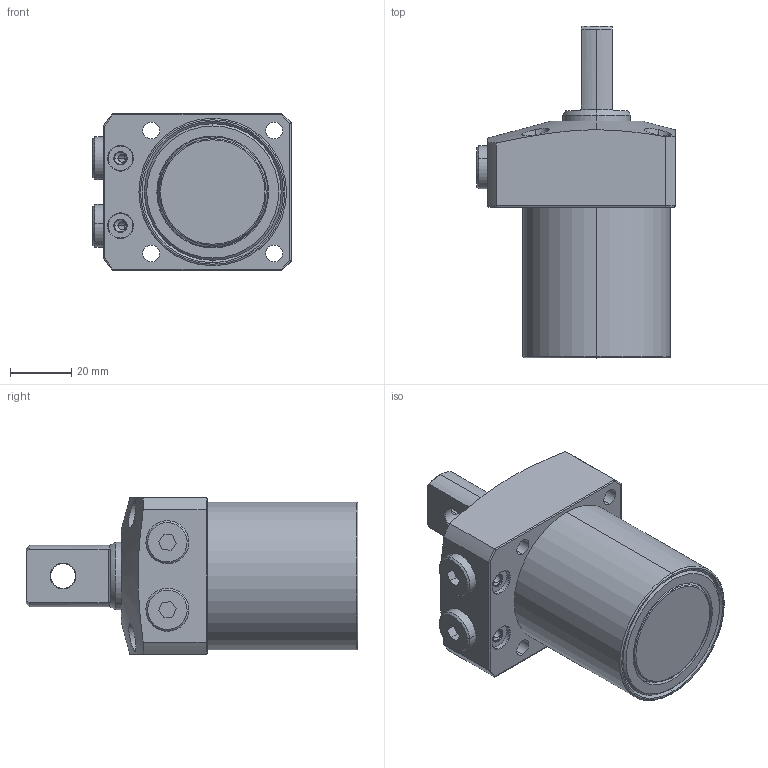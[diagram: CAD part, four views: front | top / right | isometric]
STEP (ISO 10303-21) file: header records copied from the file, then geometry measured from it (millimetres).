
FILE_DESCRIPTION (( 'STEP AP203' ), '1' );
FILE_NAME ('20360-CR-P.step', '2019-06-24T03:10:25', ( '微软用户' ), ( '微软中国' ), 'SwSTEP 2.0', 'SolidWorks 2014', '' );
FILE_SCHEMA (( 'CONFIG_CONTROL_DESIGN' ));
Length unit declared in the file: millimetre
Products named in the file (5): 20360-C-P-1^20360-CR-P; 20360-C-P-2^20360-CR-P; 20360-C-P-3^20360-CR-P; 20360-C-P-4^20360-CR-P; 20360-CR-P
Assembly tree (5 placements, depth 2):
  20360-CR-P
    20360-C-P-1^20360-CR-P
    20360-C-P-2^20360-CR-P
    20360-C-P-3^20360-CR-P
    20360-C-P-4^20360-CR-P  x2
Bounding box: 64.5 x 108 x 51 mm (x, y, z)
Volume: 177380.9 mm3; surface area: 29566 mm2
Topology: 5 solids, 5 shells, 171 faces, 393 edges, 245 vertices
Faces by surface type: cylinder 67, plane 51, cone 41, torus 12
Entity records: 5615 total; most frequent: CARTESIAN_POINT 1426, DIRECTION 806, ORIENTED_EDGE 730, EDGE_CURVE 365, AXIS2_PLACEMENT_3D 333, VERTEX_POINT 227, EDGE_LOOP 186, CIRCLE 167
